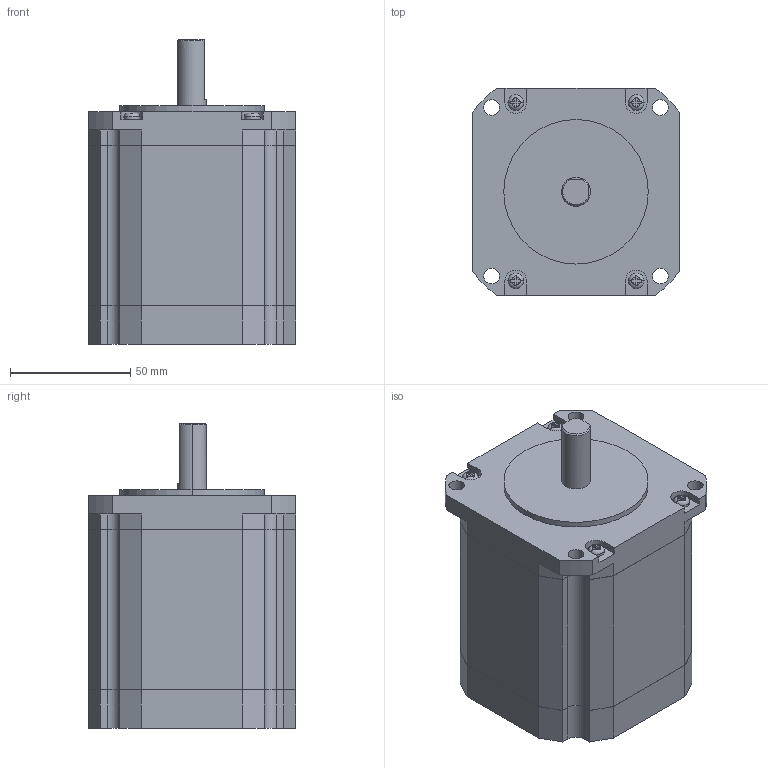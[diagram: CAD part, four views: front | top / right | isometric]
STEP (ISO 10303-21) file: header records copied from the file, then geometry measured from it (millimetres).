
FILE_DESCRIPTION (( 'STEP AP214' ), '1' );
FILE_NAME ('TS3630N2.STEP', '2011-09-15T09:01:41', ( '' ), ( '' ), 'SwSTEP 2.0', 'SolidWorks 2010', '' );
FILE_SCHEMA (( 'AUTOMOTIVE_DESIGN' ));
Length unit declared in the file: millimetre
Products named in the file (1): TS3630N2
Bounding box: 86 x 86 x 126.5 mm (x, y, z)
Volume: 644252.6 mm3; surface area: 46311.6 mm2
Topology: 1 solids, 1 shells, 209 faces, 584 edges, 385 vertices
Faces by surface type: plane 138, cylinder 60, torus 8, cone 3
Entity records: 7123 total; most frequent: CARTESIAN_POINT 1351, ORIENTED_EDGE 1168, DIRECTION 1123, EDGE_CURVE 584, LINE 393, VECTOR 393, VERTEX_POINT 385, AXIS2_PLACEMENT_3D 365
